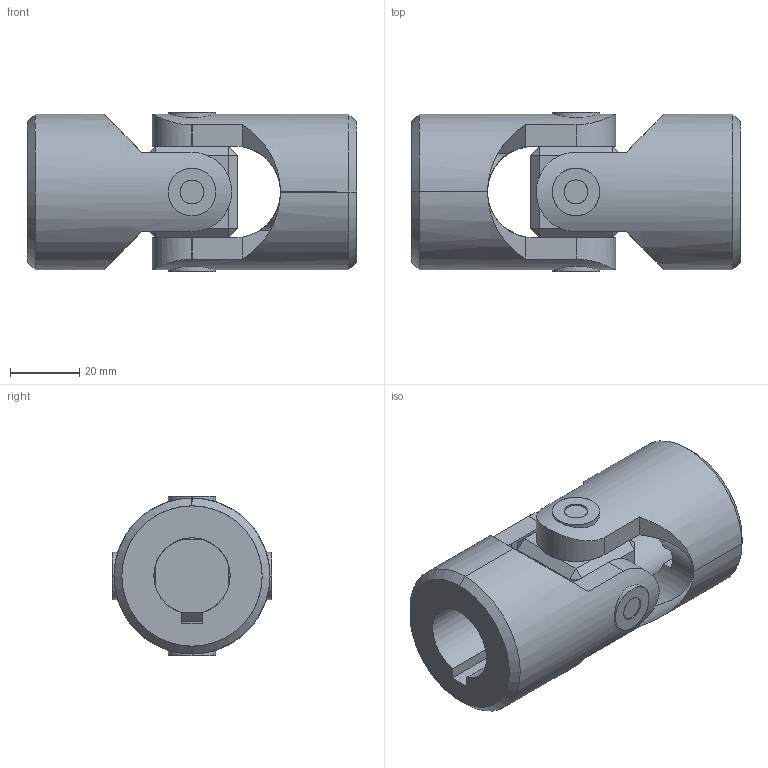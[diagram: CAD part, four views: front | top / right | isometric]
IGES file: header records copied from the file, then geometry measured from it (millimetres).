
Start section: SolidWorks IGES file using analytic representation for surfaces
Global section: file name: C:\Users\IanO\Desktop\R3690_v2\R3690_v2_20231020_IGES\R3690.022-KW.igs; native system: SolidWorks 2019; preprocessor: SolidWorks 2019; author: IanO; date: 231020.152532; units: millimetre
Bounding box: 95 x 45.9 x 45.9 mm (x, y, z)
Surface area: 31810.2 mm2 (no closed solid volume)
Topology: 0 solids, 0 shells, 110 faces, 2336 edges, 2336 vertices
Faces by surface type: bspline 62, revolution 48
